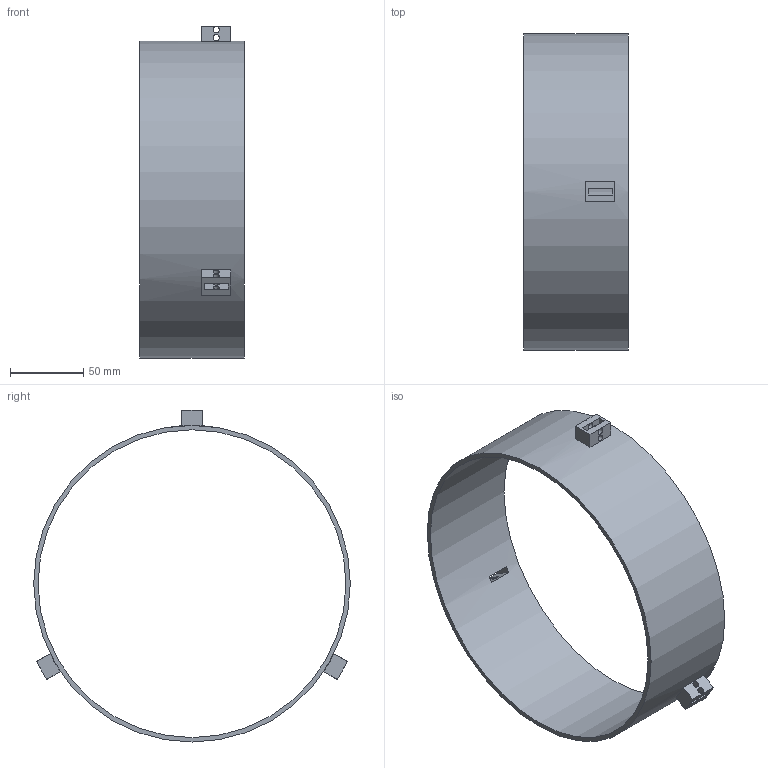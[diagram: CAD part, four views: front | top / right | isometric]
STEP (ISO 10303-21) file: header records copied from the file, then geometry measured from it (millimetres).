
FILE_DESCRIPTION(('Open CASCADE Model'),'2;1');
FILE_NAME('Open CASCADE Shape Model','2026-10-31T23:31:03',('Author'),( 'Open CASCADE'),'Open CASCADE STEP processor 7.9','Open CASCADE 7.9' ,'Unknown');
FILE_SCHEMA(('AUTOMOTIVE_DESIGN { 1 0 10303 214 1 1 1 1 }'));
Length unit declared in the file: millimetre
Products named in the file (1): Open CASCADE STEP translator 7.9 28
Bounding box: 71 x 216 x 226.5 mm (x, y, z)
Volume: 147500.9 mm3; surface area: 102885.7 mm2
Topology: 1 solids, 1 shells, 43 faces, 114 edges, 76 vertices
Faces by surface type: plane 29, cylinder 14
Full cylindrical faces by diameter (mm): 4.3 x12, 210 x1, 216 x1
Entity records: 2892 total; most frequent: CARTESIAN_POINT 582, DIRECTION 410, ORIENTED_EDGE 228, PCURVE 228, DEFINITIONAL_REPRESENTATION 228, LINE 214, VECTOR 214, EDGE_CURVE 114
